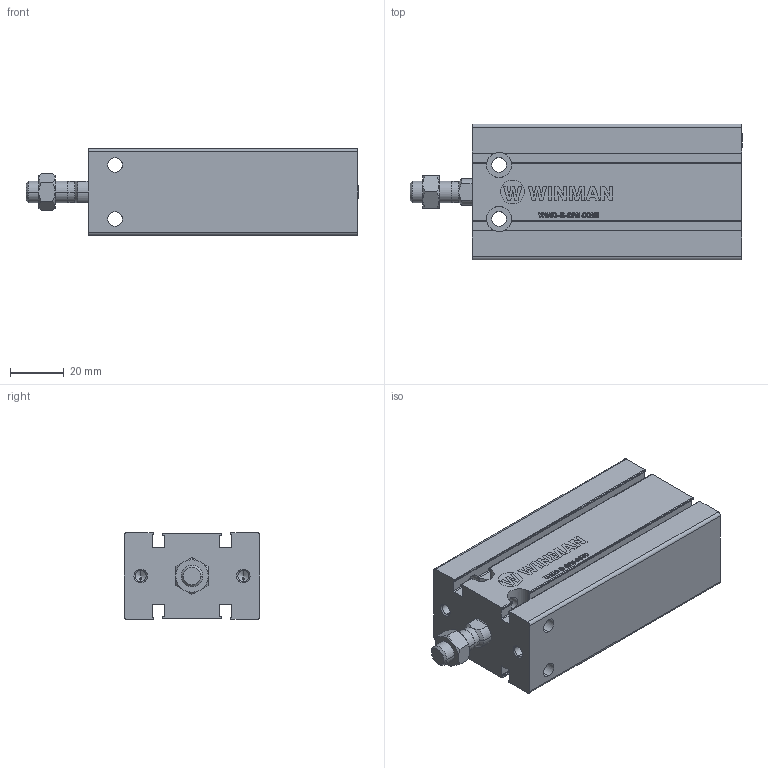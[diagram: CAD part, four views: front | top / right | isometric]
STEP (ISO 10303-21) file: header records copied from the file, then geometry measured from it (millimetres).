
FILE_DESCRIPTION (( 'STEP AP214' ), '1' );
FILE_NAME ('WMD-S-025-0050 (3D).STEP', '2019-10-08T10:41:47', ( '' ), ( '' ), 'SwSTEP 2.0', 'SolidWorks 2016', '' );
FILE_SCHEMA (( 'AUTOMOTIVE_DESIGN' ));
Length unit declared in the file: millimetre
Products named in the file (4): WMD-S-025-0050 - Rod; WMD-S-025-0050 - Nut Rod; WMD-S-025-0050 - Body; WMD-S-025-0050 (3D)
Assembly tree (3 placements, depth 2):
  WMD-S-025-0050 (3D)
    WMD-S-025-0050 - Body
    WMD-S-025-0050 - Rod
    WMD-S-025-0050 - Nut Rod
Bounding box: 123 x 50.3 x 32.2 mm (x, y, z)
Volume: 125965.8 mm3; surface area: 39105.8 mm2
Topology: 3 solids, 3 shells, 509 faces, 1375 edges, 899 vertices
Faces by surface type: plane 254, cylinder 122, bspline 92, cone 41
Entity records: 24422 total; most frequent: CARTESIAN_POINT 9265, ORIENTED_EDGE 2734, DIRECTION 2164, EDGE_CURVE 1367, VERTEX_POINT 899, LINE 840, VECTOR 840, AXIS2_PLACEMENT_3D 662
